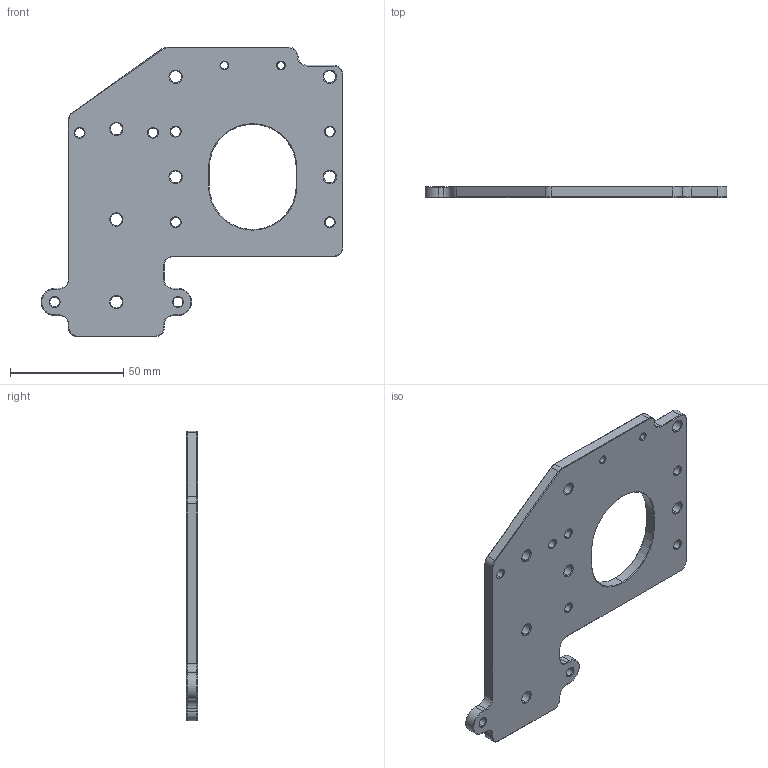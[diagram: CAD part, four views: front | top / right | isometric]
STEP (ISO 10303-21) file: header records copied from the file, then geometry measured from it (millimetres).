
FILE_DESCRIPTION (( 'STEP AP214' ), '1' );
FILE_NAME ('MAM11202 -XB- Plaque BlocMoteur Principale.STEP', '2024-12-18T10:55:57', ( '' ), ( '' ), 'SwSTEP 2.0', 'SolidWorks 2019', '' );
FILE_SCHEMA (( 'AUTOMOTIVE_DESIGN' ));
Length unit declared in the file: millimetre
Products named in the file (1): MAM11202 -XB- Plaque BlocMoteur Principale
Bounding box: 133.2 x 5 x 127.7 mm (x, y, z)
Volume: 51986.5 mm3; surface area: 24899 mm2
Topology: 1 solids, 1 shells, 206 faces, 477 edges, 273 vertices
Faces by surface type: cone 104, cylinder 52, plane 50
Entity records: 6076 total; most frequent: DIRECTION 1100, CARTESIAN_POINT 957, ORIENTED_EDGE 954, EDGE_CURVE 477, AXIS2_PLACEMENT_3D 416, VERTEX_POINT 273, VECTOR 268, LINE 268
